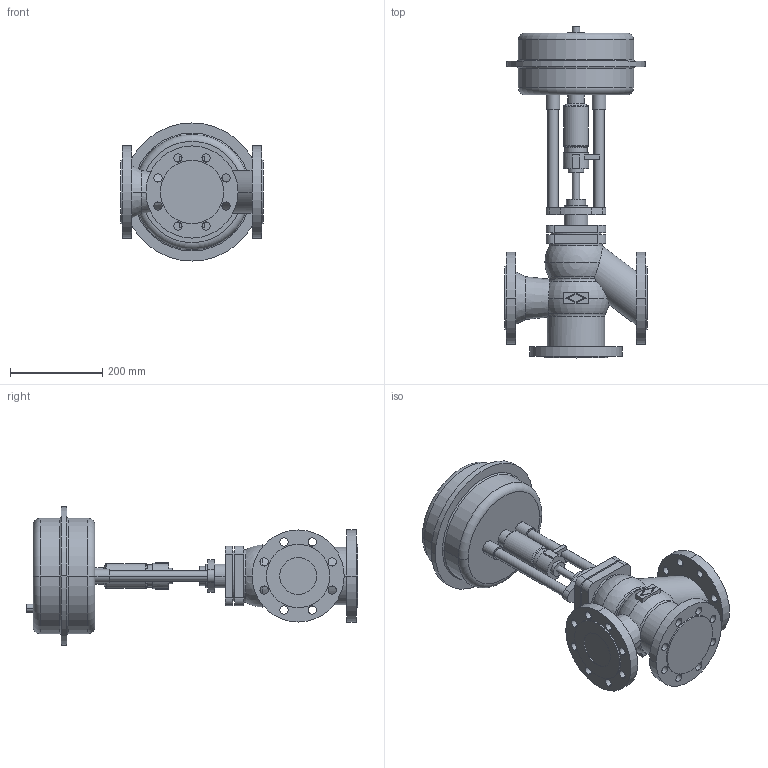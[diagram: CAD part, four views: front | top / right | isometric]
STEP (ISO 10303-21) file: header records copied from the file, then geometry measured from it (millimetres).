
FILE_DESCRIPTION(('OneSpaceDesigner STEP Export'),'2;1');
FILE_NAME('c000000676.stp','2006-09-19T10:08:08',(''),(''),'OneSpace Designer STEP processor for AP214 (Solid Model)','OneSpace Designer 13.20A 18-Aug-2005 (C) CoCreate Software GmbH','');
FILE_SCHEMA(('AUTOMOTIVE_DESIGN { 1 0 10303 214 1 1 1 1 }'));
Length unit declared in the file: millimetre
Products named in the file (2): 1; 2
Bounding box: 310 x 721.1 x 300 mm (x, y, z)
Volume: 14207668.1 mm3; surface area: 732762.5 mm2
Topology: 2 solids, 2 shells, 237 faces, 591 edges, 382 vertices
Faces by surface type: cylinder 118, plane 81, torus 26, cone 8, sphere 4
Entity records: 6451 total; most frequent: CARTESIAN_POINT 1280, ORIENTED_EDGE 1174, DIRECTION 926, EDGE_CURVE 587, VERTEX_POINT 382, AXIS2_PLACEMENT_3D 341, EDGE_LOOP 313, VECTOR 244
